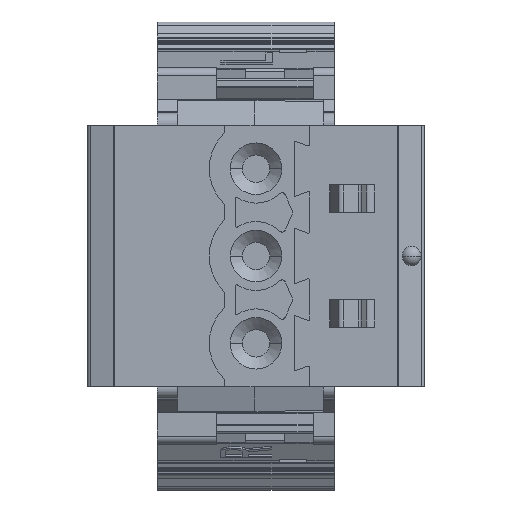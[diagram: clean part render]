
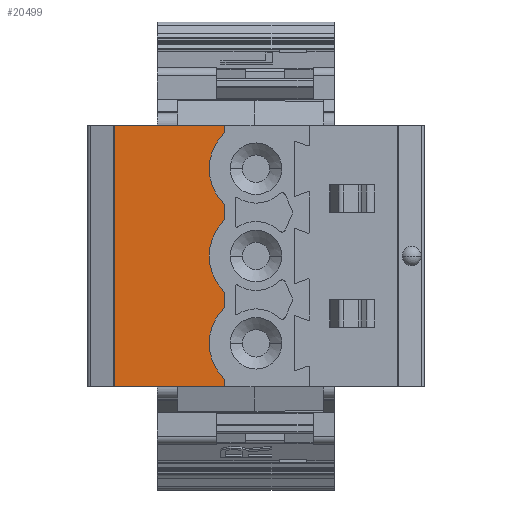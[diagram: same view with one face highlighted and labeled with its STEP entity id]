
A CAD part, front view. The second image highlights one B-rep face of the part: STEP entity #20499.
In plain terms, the highlighted planar face has unit normal (0, -1, 0).
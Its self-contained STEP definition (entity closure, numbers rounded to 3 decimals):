
#477=DIRECTION('',(0.,0.,-1.));
#478=VECTOR('',#477,15.24);
#479=CARTESIAN_POINT('',(1.589,8.6,-6.002));
#480=LINE('',#479,#478);
#485=DIRECTION('',(0.,0.,-1.));
#486=VECTOR('',#485,0.88);
#487=CARTESIAN_POINT('',(8.03,8.6,-15.722));
#488=LINE('',#487,#486);
#489=CARTESIAN_POINT('',(10.03,8.6,-18.702));
#490=DIRECTION('',(0.,-1.,0.));
#491=DIRECTION('',(-0.69,0.,0.724));
#492=AXIS2_PLACEMENT_3D('',#489,#490,#491);
#494=CARTESIAN_POINT('',(10.03,8.6,-18.702));
#495=DIRECTION('',(0.,-1.,0.));
#496=DIRECTION('',(-1.,0.,0.));
#497=AXIS2_PLACEMENT_3D('',#494,#495,#496);
#499=DIRECTION('',(0.,0.,-1.));
#500=VECTOR('',#499,0.44);
#501=CARTESIAN_POINT('',(8.03,8.6,-20.802));
#502=LINE('',#501,#500);
#503=DIRECTION('',(0.,0.,-1.));
#504=VECTOR('',#503,0.44);
#505=CARTESIAN_POINT('',(8.03,8.6,-6.002));
#506=LINE('',#505,#504);
#507=CARTESIAN_POINT('',(10.03,8.6,-8.542));
#508=DIRECTION('',(0.,-1.,0.));
#509=DIRECTION('',(-0.69,0.,0.724));
#510=AXIS2_PLACEMENT_3D('',#507,#508,#509);
#512=CARTESIAN_POINT('',(10.03,8.6,-8.542));
#513=DIRECTION('',(0.,-1.,0.));
#514=DIRECTION('',(-1.,0.,0.));
#515=AXIS2_PLACEMENT_3D('',#512,#513,#514);
#517=DIRECTION('',(0.,0.,-1.));
#518=VECTOR('',#517,0.88);
#519=CARTESIAN_POINT('',(8.03,8.6,-10.642));
#520=LINE('',#519,#518);
#521=CARTESIAN_POINT('',(10.03,8.6,-13.622));
#522=DIRECTION('',(0.,-1.,0.));
#523=DIRECTION('',(-0.69,0.,0.724));
#524=AXIS2_PLACEMENT_3D('',#521,#522,#523);
#526=CARTESIAN_POINT('',(10.03,8.6,-13.622));
#527=DIRECTION('',(0.,-1.,0.));
#528=DIRECTION('',(-1.,0.,0.));
#529=AXIS2_PLACEMENT_3D('',#526,#527,#528);
#1275=DIRECTION('',(1.,0.,0.));
#1276=VECTOR('',#1275,6.441);
#1277=CARTESIAN_POINT('',(1.589,8.6,-21.242));
#1278=LINE('',#1277,#1276);
#1462=DIRECTION('',(-1.,0.,0.));
#1463=VECTOR('',#1462,6.441);
#1464=CARTESIAN_POINT('',(8.03,8.6,-6.002));
#1465=LINE('',#1464,#1463);
#16108=CARTESIAN_POINT('',(1.589,8.6,-6.002));
#16109=CARTESIAN_POINT('',(1.589,8.6,-21.242));
#16110=VERTEX_POINT('',#16108);
#16111=VERTEX_POINT('',#16109);
#16112=CARTESIAN_POINT('',(8.03,8.6,-15.722));
#16113=CARTESIAN_POINT('',(8.03,8.6,-16.602));
#16114=VERTEX_POINT('',#16112);
#16115=VERTEX_POINT('',#16113);
#16116=CARTESIAN_POINT('',(7.13,8.6,-18.702));
#16117=VERTEX_POINT('',#16116);
#16118=CARTESIAN_POINT('',(8.03,8.6,-20.802));
#16119=VERTEX_POINT('',#16118);
#16120=CARTESIAN_POINT('',(8.03,8.6,-21.242));
#16121=VERTEX_POINT('',#16120);
#16122=CARTESIAN_POINT('',(8.03,8.6,-6.002));
#16123=VERTEX_POINT('',#16122);
#16124=CARTESIAN_POINT('',(8.03,8.6,-6.442));
#16125=VERTEX_POINT('',#16124);
#16126=CARTESIAN_POINT('',(7.13,8.6,-8.542));
#16127=VERTEX_POINT('',#16126);
#16128=CARTESIAN_POINT('',(8.03,8.6,-10.642));
#16129=VERTEX_POINT('',#16128);
#16130=CARTESIAN_POINT('',(8.03,8.6,-11.522));
#16131=VERTEX_POINT('',#16130);
#16132=CARTESIAN_POINT('',(7.13,8.6,-13.622));
#16133=VERTEX_POINT('',#16132);
#20467=CARTESIAN_POINT('',(1.563,8.6,-26.322));
#20468=DIRECTION('',(0.,-1.,0.));
#20469=DIRECTION('',(1.,0.,0.));
#20470=AXIS2_PLACEMENT_3D('',#20467,#20468,#20469);
#20471=PLANE('',#20470);
#20473=ORIENTED_EDGE('',*,*,#20472,.T.);
#20475=ORIENTED_EDGE('',*,*,#20474,.T.);
#20477=ORIENTED_EDGE('',*,*,#20476,.T.);
#20479=ORIENTED_EDGE('',*,*,#20478,.T.);
#20481=ORIENTED_EDGE('',*,*,#20480,.F.);
#20482=ORIENTED_EDGE('',*,*,#20457,.F.);
#20484=ORIENTED_EDGE('',*,*,#20483,.F.);
#20486=ORIENTED_EDGE('',*,*,#20485,.T.);
#20488=ORIENTED_EDGE('',*,*,#20487,.T.);
#20490=ORIENTED_EDGE('',*,*,#20489,.T.);
#20492=ORIENTED_EDGE('',*,*,#20491,.T.);
#20494=ORIENTED_EDGE('',*,*,#20493,.T.);
#20496=ORIENTED_EDGE('',*,*,#20495,.T.);
#20497=EDGE_LOOP('',(#20473,#20475,#20477,#20479,#20481,#20482,#20484,#20486,
#20488,#20490,#20492,#20494,#20496));
#20498=FACE_OUTER_BOUND('',#20497,.F.);
#20499=ADVANCED_FACE('',(#20498),#20471,.T.);
#493=CIRCLE('',#492,2.9);
#498=CIRCLE('',#497,2.9);
#511=CIRCLE('',#510,2.9);
#516=CIRCLE('',#515,2.9);
#525=CIRCLE('',#524,2.9);
#530=CIRCLE('',#529,2.9);
#20457=EDGE_CURVE('',#16110,#16111,#480,.T.);
#20472=EDGE_CURVE('',#16114,#16115,#488,.T.);
#20474=EDGE_CURVE('',#16115,#16117,#493,.T.);
#20476=EDGE_CURVE('',#16117,#16119,#498,.T.);
#20478=EDGE_CURVE('',#16119,#16121,#502,.T.);
#20480=EDGE_CURVE('',#16111,#16121,#1278,.T.);
#20483=EDGE_CURVE('',#16123,#16110,#1465,.T.);
#20485=EDGE_CURVE('',#16123,#16125,#506,.T.);
#20487=EDGE_CURVE('',#16125,#16127,#511,.T.);
#20489=EDGE_CURVE('',#16127,#16129,#516,.T.);
#20491=EDGE_CURVE('',#16129,#16131,#520,.T.);
#20493=EDGE_CURVE('',#16131,#16133,#525,.T.);
#20495=EDGE_CURVE('',#16133,#16114,#530,.T.);
